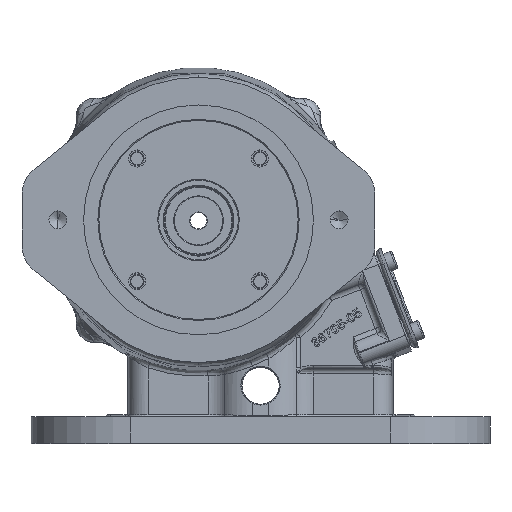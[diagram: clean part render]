
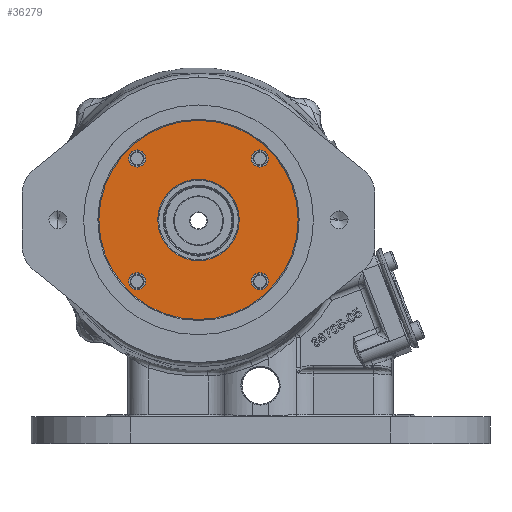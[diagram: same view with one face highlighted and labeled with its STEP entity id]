
A CAD part, top view. The second image highlights one B-rep face of the part: STEP entity #36279.
In plain terms, the highlighted planar face has unit normal (0, 0, 1).
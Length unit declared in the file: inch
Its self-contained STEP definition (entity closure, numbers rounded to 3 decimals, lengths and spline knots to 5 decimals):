
#678 = CARTESIAN_POINT ( 'NONE',  ( -1.409, -1.237, 1.52 ) ) ;
#745 = DIRECTION ( 'NONE',  ( 1., 0., 0. ) ) ;
#1910 = ORIENTED_EDGE ( 'NONE', *, *, #138489, .F. ) ;
#2009 = EDGE_LOOP ( 'NONE', ( #12900, #139590 ) ) ;
#3595 = ORIENTED_EDGE ( 'NONE', *, *, #87726, .F. ) ;
#5662 = AXIS2_PLACEMENT_3D ( 'NONE', #145906, #41704, #53617 ) ;
#5707 = VERTEX_POINT ( 'NONE', #48068 ) ;
#6890 = AXIS2_PLACEMENT_3D ( 'NONE', #54453, #66375, #43276 ) ;
#7860 = PLANE ( 'NONE',  #19401 ) ;
#8559 = VERTEX_POINT ( 'NONE', #58621 ) ;
#9128 = EDGE_CURVE ( 'NONE', #132656, #92648, #44788, .T. ) ;
#9320 = DIRECTION ( 'NONE',  ( 0., 0., 1. ) ) ;
#12900 = ORIENTED_EDGE ( 'NONE', *, *, #30498, .F. ) ;
#13840 = VERTEX_POINT ( 'NONE', #69698 ) ;
#14471 = ORIENTED_EDGE ( 'NONE', *, *, #9128, .F. ) ;
#15231 = EDGE_LOOP ( 'NONE', ( #116068, #103536 ) ) ;
#17484 = VERTEX_POINT ( 'NONE', #103167 ) ;
#17854 = DIRECTION ( 'NONE',  ( 1., 0., 0. ) ) ;
#18615 = VERTEX_POINT ( 'NONE', #58765 ) ;
#19401 = AXIS2_PLACEMENT_3D ( 'NONE', #53294, #98746, #42129 ) ;
#23084 = AXIS2_PLACEMENT_3D ( 'NONE', #28373, #73820, #38093 ) ;
#23095 = DIRECTION ( 'NONE',  ( 0., 0., 1. ) ) ;
#23351 = EDGE_CURVE ( 'NONE', #50412, #124460, #43430, .T. ) ;
#23654 = CIRCLE ( 'NONE', #130602, 0.82084 ) ;
#24764 = EDGE_CURVE ( 'NONE', #92648, #132656, #131481, .T. ) ;
#28373 = CARTESIAN_POINT ( 'NONE',  ( -1.237, -1.237, 1.52 ) ) ;
#29467 = FACE_BOUND ( 'NONE', #2009, .T. ) ;
#30498 = EDGE_CURVE ( 'NONE', #18615, #5707, #81617, .T. ) ;
#32638 = CIRCLE ( 'NONE', #23084, 0.172 ) ;
#33416 = AXIS2_PLACEMENT_3D ( 'NONE', #78581, #9320, #89029 ) ;
#35046 = CARTESIAN_POINT ( 'NONE',  ( 2.006, 0., 1.52 ) ) ;
#35116 = CARTESIAN_POINT ( 'NONE',  ( 1.237, -1.237, 1.52 ) ) ;
#36279 = ADVANCED_FACE ( 'NONE', ( #86833, #29467, #74911, #143366, #41384, #132190 ), #7860, .F. ) ;
#37862 = CIRCLE ( 'NONE', #6890, 2.006 ) ;
#38093 = DIRECTION ( 'NONE',  ( 1., 0., 0. ) ) ;
#41384 = FACE_BOUND ( 'NONE', #15231, .T. ) ;
#41704 = DIRECTION ( 'NONE',  ( 0., 0., 1. ) ) ;
#42129 = DIRECTION ( 'NONE',  ( 1., 0., 0. ) ) ;
#42740 = CARTESIAN_POINT ( 'NONE',  ( 1.237, 1.237, 1.52 ) ) ;
#43276 = DIRECTION ( 'NONE',  ( -1., 0., 0. ) ) ;
#43430 = CIRCLE ( 'NONE', #129028, 2.006 ) ;
#43528 = CARTESIAN_POINT ( 'NONE',  ( 0., 0., 1.52 ) ) ;
#44788 = CIRCLE ( 'NONE', #135120, 0.172 ) ;
#44985 = DIRECTION ( 'NONE',  ( 0., 0., 1. ) ) ;
#48068 = CARTESIAN_POINT ( 'NONE',  ( 1.065, 1.237, 1.52 ) ) ;
#49241 = CARTESIAN_POINT ( 'NONE',  ( 0., 0., 1.52 ) ) ;
#49429 = DIRECTION ( 'NONE',  ( 0., 0., 1. ) ) ;
#49510 = CARTESIAN_POINT ( 'NONE',  ( -1.065, -1.237, 1.52 ) ) ;
#50335 = VERTEX_POINT ( 'NONE', #57413 ) ;
#50412 = VERTEX_POINT ( 'NONE', #35046 ) ;
#51938 = EDGE_CURVE ( 'NONE', #50335, #13840, #23654, .T. ) ;
#52668 = CARTESIAN_POINT ( 'NONE',  ( 1.065, -1.237, 1.52 ) ) ;
#53168 = DIRECTION ( 'NONE',  ( 1., 0., 0. ) ) ;
#53294 = CARTESIAN_POINT ( 'NONE',  ( -2.04612, 2.04612, 1.52 ) ) ;
#53617 = DIRECTION ( 'NONE',  ( 1., 0., 0. ) ) ;
#54453 = CARTESIAN_POINT ( 'NONE',  ( 0., 0., 1.52 ) ) ;
#56739 = EDGE_CURVE ( 'NONE', #5707, #18615, #64349, .T. ) ;
#57413 = CARTESIAN_POINT ( 'NONE',  ( 0., 0.82084, 1.52 ) ) ;
#57562 = CARTESIAN_POINT ( 'NONE',  ( 1.409, -1.237, 1.52 ) ) ;
#57643 = DIRECTION ( 'NONE',  ( -1., 0., 0. ) ) ;
#57804 = CIRCLE ( 'NONE', #119584, 0.172 ) ;
#58621 = CARTESIAN_POINT ( 'NONE',  ( -1.065, 1.237, 1.52 ) ) ;
#58765 = CARTESIAN_POINT ( 'NONE',  ( 1.409, 1.237, 1.52 ) ) ;
#62692 = EDGE_LOOP ( 'NONE', ( #14471, #118644 ) ) ;
#62801 = CARTESIAN_POINT ( 'NONE',  ( 1.237, -1.237, 1.52 ) ) ;
#63608 = DIRECTION ( 'NONE',  ( 0., 0., 1. ) ) ;
#64349 = CIRCLE ( 'NONE', #33416, 0.172 ) ;
#66375 = DIRECTION ( 'NONE',  ( 0., 0., 1. ) ) ;
#67059 = CIRCLE ( 'NONE', #133647, 0.82084 ) ;
#68369 = EDGE_LOOP ( 'NONE', ( #116203, #74660 ) ) ;
#69698 = CARTESIAN_POINT ( 'NONE',  ( 0., -0.82084, 1.52 ) ) ;
#69932 = CIRCLE ( 'NONE', #5662, 0.172 ) ;
#71747 = EDGE_CURVE ( 'NONE', #17484, #8559, #69932, .T. ) ;
#73064 = DIRECTION ( 'NONE',  ( 0., 0., 1. ) ) ;
#73563 = CARTESIAN_POINT ( 'NONE',  ( -2.006, 0., 1.52 ) ) ;
#73820 = DIRECTION ( 'NONE',  ( 0., 0., 1. ) ) ;
#74660 = ORIENTED_EDGE ( 'NONE', *, *, #23351, .T. ) ;
#74911 = FACE_BOUND ( 'NONE', #62692, .T. ) ;
#78581 = CARTESIAN_POINT ( 'NONE',  ( 1.237, 1.237, 1.52 ) ) ;
#81617 = CIRCLE ( 'NONE', #124398, 0.172 ) ;
#84922 = CARTESIAN_POINT ( 'NONE',  ( -1.237, -1.237, 1.52 ) ) ;
#86833 = FACE_BOUND ( 'NONE', #110867, .T. ) ;
#87726 = EDGE_CURVE ( 'NONE', #13840, #50335, #67059, .T. ) ;
#88745 = AXIS2_PLACEMENT_3D ( 'NONE', #35116, #123741, #125933 ) ;
#89029 = DIRECTION ( 'NONE',  ( 1., 0., 0. ) ) ;
#90856 = EDGE_CURVE ( 'NONE', #8559, #17484, #57804, .T. ) ;
#92648 = VERTEX_POINT ( 'NONE', #52668 ) ;
#98746 = DIRECTION ( 'NONE',  ( 0., 0., -1. ) ) ;
#99234 = VERTEX_POINT ( 'NONE', #678 ) ;
#99828 = ORIENTED_EDGE ( 'NONE', *, *, #51938, .F. ) ;
#103167 = CARTESIAN_POINT ( 'NONE',  ( -1.409, 1.237, 1.52 ) ) ;
#103536 = ORIENTED_EDGE ( 'NONE', *, *, #71747, .F. ) ;
#105640 = EDGE_CURVE ( 'NONE', #124460, #50412, #37862, .T. ) ;
#108302 = CARTESIAN_POINT ( 'NONE',  ( 0., 0., 1.52 ) ) ;
#109033 = DIRECTION ( 'NONE',  ( 0., 0., 1. ) ) ;
#110867 = EDGE_LOOP ( 'NONE', ( #3595, #99828 ) ) ;
#116068 = ORIENTED_EDGE ( 'NONE', *, *, #90856, .F. ) ;
#116203 = ORIENTED_EDGE ( 'NONE', *, *, #105640, .T. ) ;
#118644 = ORIENTED_EDGE ( 'NONE', *, *, #24764, .F. ) ;
#119584 = AXIS2_PLACEMENT_3D ( 'NONE', #136247, #23095, #745 ) ;
#119705 = CIRCLE ( 'NONE', #133980, 0.172 ) ;
#119823 = DIRECTION ( 'NONE',  ( 0., 0., 1. ) ) ;
#120186 = DIRECTION ( 'NONE',  ( 0., -1., 0. ) ) ;
#123741 = DIRECTION ( 'NONE',  ( 0., 0., 1. ) ) ;
#124398 = AXIS2_PLACEMENT_3D ( 'NONE', #42740, #63608, #53168 ) ;
#124460 = VERTEX_POINT ( 'NONE', #73563 ) ;
#125933 = DIRECTION ( 'NONE',  ( 1., 0., 0. ) ) ;
#129028 = AXIS2_PLACEMENT_3D ( 'NONE', #43528, #44985, #57643 ) ;
#129923 = EDGE_CURVE ( 'NONE', #99234, #132098, #32638, .T. ) ;
#130602 = AXIS2_PLACEMENT_3D ( 'NONE', #108302, #109033, #120186 ) ;
#131481 = CIRCLE ( 'NONE', #88745, 0.172 ) ;
#131564 = ORIENTED_EDGE ( 'NONE', *, *, #129923, .F. ) ;
#132098 = VERTEX_POINT ( 'NONE', #49510 ) ;
#132190 = FACE_OUTER_BOUND ( 'NONE', #68369, .T. ) ;
#132656 = VERTEX_POINT ( 'NONE', #57562 ) ;
#133647 = AXIS2_PLACEMENT_3D ( 'NONE', #49241, #73064, #140051 ) ;
#133980 = AXIS2_PLACEMENT_3D ( 'NONE', #84922, #119823, #17854 ) ;
#135120 = AXIS2_PLACEMENT_3D ( 'NONE', #62801, #49429, #139517 ) ;
#136247 = CARTESIAN_POINT ( 'NONE',  ( -1.237, 1.237, 1.52 ) ) ;
#138489 = EDGE_CURVE ( 'NONE', #132098, #99234, #119705, .T. ) ;
#139517 = DIRECTION ( 'NONE',  ( 1., 0., 0. ) ) ;
#139590 = ORIENTED_EDGE ( 'NONE', *, *, #56739, .F. ) ;
#140051 = DIRECTION ( 'NONE',  ( 0., -1., 0. ) ) ;
#141493 = EDGE_LOOP ( 'NONE', ( #1910, #131564 ) ) ;
#143366 = FACE_BOUND ( 'NONE', #141493, .T. ) ;
#145906 = CARTESIAN_POINT ( 'NONE',  ( -1.237, 1.237, 1.52 ) ) ;
